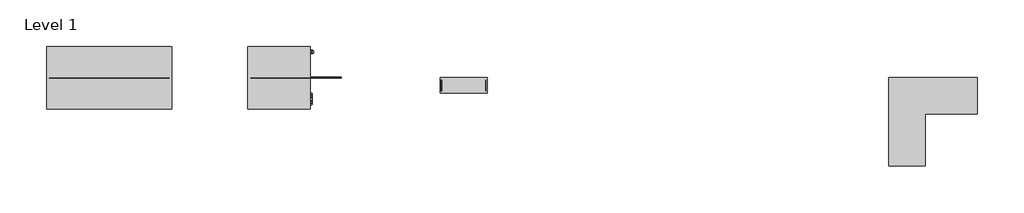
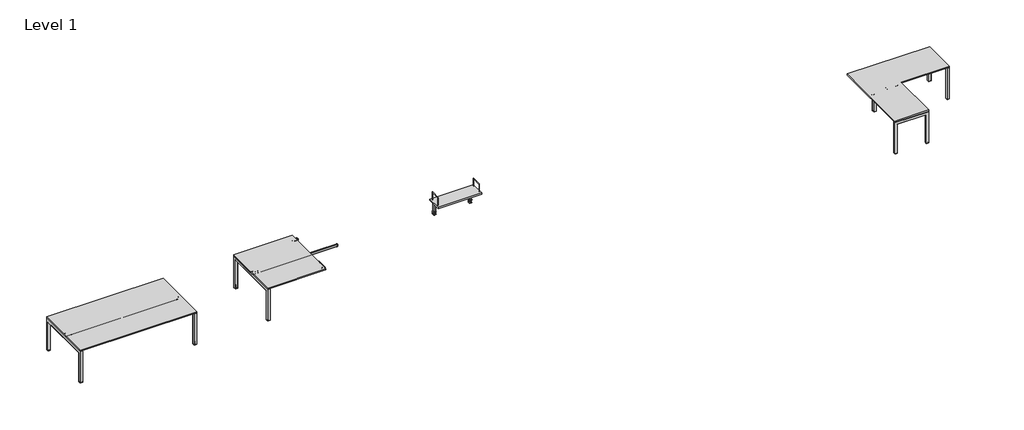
# One storey, incomplete: 4 furniture elements.
"""IFC4 building model written with IfcOpenShell, lengths in millimetres."""

from ifc_helpers import new_model, si_unit, origin, place, context, project, spatial, transform, mapped, element, save
from components import track_90_deg_desk_track_90_deg_desk_626baa0c, track_90_deg_desk_track_90_deg_desk_8e9b47cc, track_90_deg_desk_track_90_deg_desk_b40ebd61, track_extend_top_track_extend_top_a8d275c8, track_return_track_return_1cf5c929, track_return_track_return_ac03edc2, track_straight_desk_track_straight_desk_92b57662, track_straight_desk_track_straight_desk_033697cb

model = new_model("IFC4")

# Units and contexts
model_context = context("Model", 3, world=origin())
ifc_project = project(units=[si_unit("LENGTHUNIT", "METRE", prefix="MILLI")], contexts=[model_context])

# Site, building, storey
site = spatial("IfcSite", under=ifc_project)
building = spatial("IfcBuilding", under=site)
storey = spatial("IfcBuildingStorey", under=building, Name="Level 1", Elevation=0.0)

# Furniture
placement = place(None, origin())
track_90_deg_desk_track_90_deg_desk_shape = track_90_deg_desk_track_90_deg_desk_626baa0c(model_context)
track_90_deg_desk_track_90_deg_desk_2_shape = track_90_deg_desk_track_90_deg_desk_8e9b47cc(model_context)
track_90_deg_desk_track_90_deg_desk_3_shape = track_90_deg_desk_track_90_deg_desk_b40ebd61(model_context)
element("IfcFurniture", 1, ObjectType="Track 90 Deg Desk : Track 90 Deg Desk", at=placement, inside=storey, context=model_context, shape_type="MappedRepresentation", body=[
    mapped(track_90_deg_desk_track_90_deg_desk_shape, transform((4745.0222063, -381.4044897, 0.0), x_axis=(1.0, 0.0, 0.0), y_axis=(0.0, 1.0, 0.0), z_axis=(0.0, 0.0, 1.0))),
    mapped(track_90_deg_desk_track_90_deg_desk_2_shape, transform((4745.0222063, -381.4044897, 0.0), x_axis=(1.0, 0.0, 0.0), y_axis=(0.0, 1.0, 0.0), z_axis=(0.0, 0.0, 1.0))),
    mapped(track_90_deg_desk_track_90_deg_desk_3_shape, transform((4745.0222063, -381.4044897, 0.0), x_axis=(1.0, 0.0, 0.0), y_axis=(0.0, 1.0, 0.0), z_axis=(0.0, 0.0, 1.0))),
])
track_extend_top_track_extend_top_shape = track_extend_top_track_extend_top_a8d275c8(model_context)
element("IfcFurniture", 2, ObjectType="Track Extend top : Track Extend top", at=placement, inside=storey, context=model_context, shape_type="MappedRepresentation", body=[
    mapped(track_extend_top_track_extend_top_shape, transform((-3408.1465589, -381.4044897, 0.0), x_axis=(1.0, 0.0, 0.0), y_axis=(0.0, 1.0, 0.0), z_axis=(0.0, 0.0, 1.0))),
])
track_return_track_return_shape = track_return_track_return_1cf5c929(model_context)
track_return_track_return_2_shape = track_return_track_return_ac03edc2(model_context)
element("IfcFurniture", 3, ObjectType="Track Return : Track Return", at=placement, inside=storey, context=model_context, shape_type="MappedRepresentation", body=[
    mapped(track_return_track_return_shape, transform((-6346.3496742, -381.4044897, 0.0), x_axis=(1.0, 0.0, 0.0), y_axis=(0.0, 1.0, 0.0), z_axis=(0.0, 0.0, 1.0))),
    mapped(track_return_track_return_2_shape, transform((-6346.3496742, -381.4044897, 0.0), x_axis=(1.0, 0.0, 0.0), y_axis=(0.0, 1.0, 0.0), z_axis=(0.0, 0.0, 1.0))),
])
track_straight_desk_track_straight_desk_shape = track_straight_desk_track_straight_desk_92b57662(model_context)
track_straight_desk_track_straight_desk_2_shape = track_straight_desk_track_straight_desk_033697cb(model_context)
element("IfcFurniture", 4, ObjectType="Track Straight Desk : Track Straight Desk", at=placement, inside=storey, context=model_context, shape_type="MappedRepresentation", body=[
    mapped(track_straight_desk_track_straight_desk_shape, transform((-10207.7902548, -381.4044897, 0.0), x_axis=(1.0, 0.0, 0.0), y_axis=(0.0, 1.0, 0.0), z_axis=(0.0, 0.0, 1.0))),
    mapped(track_straight_desk_track_straight_desk_2_shape, transform((-10207.7902548, -381.4044897, 0.0), x_axis=(1.0, 0.0, 0.0), y_axis=(0.0, 1.0, 0.0), z_axis=(0.0, 0.0, 1.0))),
])

save(model, "model.ifc")
